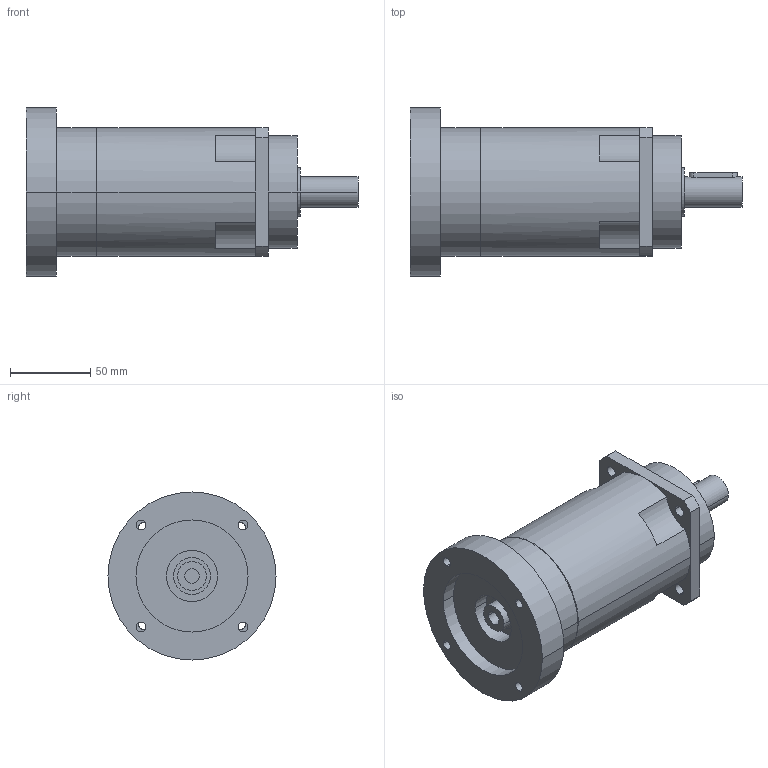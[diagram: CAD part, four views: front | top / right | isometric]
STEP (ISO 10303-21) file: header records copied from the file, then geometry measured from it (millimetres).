
FILE_DESCRIPTION(('CoCreate Modeling STEP Export'),'2;1');
FILE_NAME('GPR100_ig-48-64-80-100-120-144-180-216_19_B5_9_P14.stp','2014-08-26T13:05:13',(''),(''),'CoCreate Modeling STEP processor for AP214 (Solid Model)','CoCreate Modeling 16.00C 25-Feb-2009 (C) Parametric Technology GmbH','');
FILE_SCHEMA(('AUTOMOTIVE_DESIGN { 1 0 10303 214 1 1 1 1 }'));
Length unit declared in the file: millimetre
Products named in the file (2): GPR100_ig-48-64-80-100-120-144-180-216_19_B5_9_P14
Assembly tree (1 placements, depth 2):
  GPR100_ig-48-64-80-100-120-144-180-216_19_B5_9_P14
    GPR100_ig-48-64-80-100-120-144-180-216_19_B5_9_P14
Bounding box: 207.4 x 105 x 105 mm (x, y, z)
Volume: 866700.5 mm3; surface area: 73739.5 mm2
Topology: 1 solids, 1 shells, 95 faces, 262 edges, 182 vertices
Faces by surface type: cylinder 58, plane 31, cone 6
Entity records: 2700 total; most frequent: ORIENTED_EDGE 520, CARTESIAN_POINT 484, DIRECTION 386, EDGE_CURVE 260, VERTEX_POINT 182, AXIS2_PLACEMENT_3D 148, EDGE_LOOP 126, FACE_OUTER_BOUND 95
